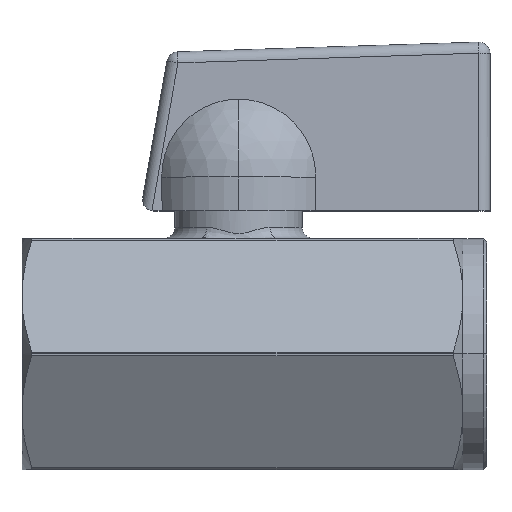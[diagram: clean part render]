
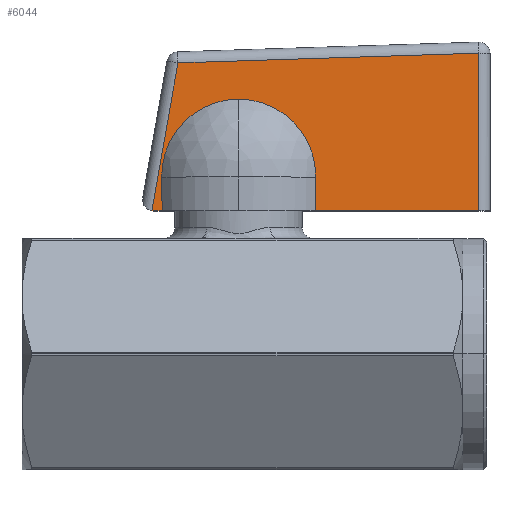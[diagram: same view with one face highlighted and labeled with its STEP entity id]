
A CAD part, top view. The second image highlights one B-rep face of the part: STEP entity #6044.
In plain terms, the highlighted planar face has unit normal (0.003, 0.017, 1) as drawn and (-0.017, -0.003, -1) by its records, which use the part's own axes.
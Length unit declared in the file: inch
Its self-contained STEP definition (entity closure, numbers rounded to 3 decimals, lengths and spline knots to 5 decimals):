
#201 =( BOUNDED_CURVE ( )  B_SPLINE_CURVE ( 3, ( #2410, #6402, #22662, #18412 ),
 .UNSPECIFIED., .F., .T. ) 
 B_SPLINE_CURVE_WITH_KNOTS ( ( 4, 4 ),
 ( 5.31758, 5.32516 ),
 .UNSPECIFIED. ) 
 CURVE ( )  GEOMETRIC_REPRESENTATION_ITEM ( )  RATIONAL_B_SPLINE_CURVE ( ( 1., 1., 1., 1. ) ) 
 REPRESENTATION_ITEM ( '' )  );
#817 = VECTOR ( 'NONE', #18929, 39.37008 ) ;
#1654 = CARTESIAN_POINT ( 'NONE',  ( 0., 0.2956, -0.18883 ) ) ;
#1756 = CARTESIAN_POINT ( 'NONE',  ( 0.00684, 0.30375, -0.18898 ) ) ;
#2410 = CARTESIAN_POINT ( 'NONE',  ( -0.11811, -0.2693, -0.18509 ) ) ;
#2630 = LINE ( 'NONE', #14880, #16969 ) ;
#3029 = CARTESIAN_POINT ( 'NONE',  ( 0., -0.8387, -0.1854 ) ) ;
#3222 = VERTEX_POINT ( 'NONE', #18134 ) ;
#3407 = CARTESIAN_POINT ( 'NONE',  ( 0., 0.29789, -0.18884 ) ) ;
#3822 = VERTEX_POINT ( 'NONE', #17900 ) ;
#4203 = EDGE_CURVE ( 'NONE', #16879, #3222, #2630, .T. ) ;
#4213 = CARTESIAN_POINT ( 'NONE',  ( -0.55168, -0.87328, -0.17581 ) ) ;
#4371 =( BOUNDED_CURVE ( )  B_SPLINE_CURVE ( 3, ( #10057, #13803, #3407, #1654 ),
 .UNSPECIFIED., .F., .F. ) 
 B_SPLINE_CURVE_WITH_KNOTS ( ( 4, 4 ),
 ( 0., 0.17453 ),
 .UNSPECIFIED. ) 
 CURVE ( )  GEOMETRIC_REPRESENTATION_ITEM ( )  RATIONAL_B_SPLINE_CURVE ( ( 1., 0.997, 0.997, 1. ) ) 
 REPRESENTATION_ITEM ( '' )  );
#4936 = CARTESIAN_POINT ( 'NONE',  ( 0., 0.34137, -0.18897 ) ) ;
#5399 = VERTEX_POINT ( 'NONE', #21368 ) ;
#5614 = DIRECTION ( 'NONE',  ( 0., 1., -0.003 ) ) ;
#5619 = EDGE_CURVE ( 'NONE', #17907, #21731, #4371, .T. ) ;
#6044 = ADVANCED_FACE ( 'NONE', ( #8043 ), #12335, .F. ) ;
#6402 = CARTESIAN_POINT ( 'NONE',  ( -0.07864, -0.26883, -0.18577 ) ) ;
#6403 = CIRCLE ( 'NONE', #7253, 0.26875 ) ;
#6994 = CARTESIAN_POINT ( 'NONE',  ( -0.39002, 0., -0.18123 ) ) ;
#7253 = AXIS2_PLACEMENT_3D ( 'NONE', #8012, #11909, #16147 ) ;
#7750 = LINE ( 'NONE', #26157, #23415 ) ;
#8012 = CARTESIAN_POINT ( 'NONE',  ( -0.1213, -0.00056, -0.18585 ) ) ;
#8043 = FACE_OUTER_BOUND ( 'NONE', #12156, .T. ) ;
#8131 = ORIENTED_EDGE ( 'NONE', *, *, #15511, .T. ) ;
#8428 = VERTEX_POINT ( 'NONE', #23391 ) ;
#9307 = ORIENTED_EDGE ( 'NONE', *, *, #24202, .T. ) ;
#9701 = DIRECTION ( 'NONE',  ( 1., 0., -0.017 ) ) ;
#10057 = CARTESIAN_POINT ( 'NONE',  ( -0.0006, 0.30244, -0.18884 ) ) ;
#10081 = AXIS2_PLACEMENT_3D ( 'NONE', #12599, #10334, #12729 ) ;
#10238 = EDGE_CURVE ( 'NONE', #3222, #13763, #26218, .T. ) ;
#10334 = DIRECTION ( 'NONE',  ( 0.017, 0.003, 1. ) ) ;
#10878 = ORIENTED_EDGE ( 'NONE', *, *, #5619, .T. ) ;
#11035 = CARTESIAN_POINT ( 'NONE',  ( 0., 0.2956, -0.18883 ) ) ;
#11060 = VECTOR ( 'NONE', #15887, 39.37008 ) ;
#11909 = DIRECTION ( 'NONE',  ( 0.017, 0.003, 1. ) ) ;
#12156 = EDGE_LOOP ( 'NONE', ( #22854, #15176, #22592, #25919, #10878, #17365, #15343, #8131, #16321, #9307 ) ) ;
#12216 = DIRECTION ( 'NONE',  ( 0.032, 0.999, -0.004 ) ) ;
#12240 = CARTESIAN_POINT ( 'NONE',  ( -0.1213, -0.00056, -0.18585 ) ) ;
#12335 = PLANE ( 'NONE',  #10081 ) ;
#12599 = CARTESIAN_POINT ( 'NONE',  ( 0.21877, -0.89818, -0.18898 ) ) ;
#12624 = CARTESIAN_POINT ( 'NONE',  ( -0.0006, 0.30244, -0.18884 ) ) ;
#12729 = DIRECTION ( 'NONE',  ( 0.174, -0.985, 0. ) ) ;
#12735 = CARTESIAN_POINT ( 'NONE',  ( -0.07864, 0.2677, -0.1874 ) ) ;
#13030 = DIRECTION ( 'NONE',  ( -1., 0., 0.017 ) ) ;
#13611 = AXIS2_PLACEMENT_3D ( 'NONE', #12240, #18218, #9701 ) ;
#13752 = EDGE_CURVE ( 'NONE', #8428, #17296, #17652, .T. ) ;
#13763 = VERTEX_POINT ( 'NONE', #22569 ) ;
#13803 = CARTESIAN_POINT ( 'NONE',  ( -0.0002, 0.30018, -0.18884 ) ) ;
#14463 = CARTESIAN_POINT ( 'NONE',  ( 0., 0.26675, -0.18875 ) ) ;
#14880 = CARTESIAN_POINT ( 'NONE',  ( 0.21877, -0.8387, -0.18916 ) ) ;
#15176 = ORIENTED_EDGE ( 'NONE', *, *, #4203, .T. ) ;
#15343 = ORIENTED_EDGE ( 'NONE', *, *, #13752, .T. ) ;
#15511 = EDGE_CURVE ( 'NONE', #17296, #17397, #23799, .T. ) ;
#15887 = DIRECTION ( 'NONE',  ( 0.985, 0.174, -0.017 ) ) ;
#16147 = DIRECTION ( 'NONE',  ( 1., 0., -0.017 ) ) ;
#16321 = ORIENTED_EDGE ( 'NONE', *, *, #24055, .T. ) ;
#16675 = LINE ( 'NONE', #4936, #817 ) ;
#16879 = VERTEX_POINT ( 'NONE', #3029 ) ;
#16969 = VECTOR ( 'NONE', #13030, 39.37008 ) ;
#17296 = VERTEX_POINT ( 'NONE', #19120 ) ;
#17365 = ORIENTED_EDGE ( 'NONE', *, *, #17694, .F. ) ;
#17397 = VERTEX_POINT ( 'NONE', #6994 ) ;
#17652 =( BOUNDED_CURVE ( )  B_SPLINE_CURVE ( 3, ( #14463, #24433, #12735, #22966 ),
 .UNSPECIFIED., .F., .F. ) 
 B_SPLINE_CURVE_WITH_KNOTS ( ( 4, 4 ),
 ( 0.95803, 0.9656 ),
 .UNSPECIFIED. ) 
 CURVE ( )  GEOMETRIC_REPRESENTATION_ITEM ( )  RATIONAL_B_SPLINE_CURVE ( ( 1., 1., 1., 1. ) ) 
 REPRESENTATION_ITEM ( '' )  );
#17694 = EDGE_CURVE ( 'NONE', #8428, #21731, #7750, .T. ) ;
#17900 = CARTESIAN_POINT ( 'NONE',  ( 0., -0.26789, -0.18713 ) ) ;
#17907 = VERTEX_POINT ( 'NONE', #12624 ) ;
#18134 = CARTESIAN_POINT ( 'NONE',  ( -0.55057, -0.8387, -0.17593 ) ) ;
#18148 = LINE ( 'NONE', #1756, #11060 ) ;
#18218 = DIRECTION ( 'NONE',  ( 0.017, 0.003, 1. ) ) ;
#18412 = CARTESIAN_POINT ( 'NONE',  ( 0., -0.26789, -0.18713 ) ) ;
#18929 = DIRECTION ( 'NONE',  ( 0., 1., -0.003 ) ) ;
#19120 = CARTESIAN_POINT ( 'NONE',  ( -0.11811, 0.26817, -0.18672 ) ) ;
#20323 = VECTOR ( 'NONE', #12216, 39.37008 ) ;
#21368 = CARTESIAN_POINT ( 'NONE',  ( -0.11811, -0.2693, -0.18509 ) ) ;
#21731 = VERTEX_POINT ( 'NONE', #11035 ) ;
#22484 = EDGE_CURVE ( 'NONE', #16879, #3822, #16675, .T. ) ;
#22569 = CARTESIAN_POINT ( 'NONE',  ( -0.51669, 0.21144, -0.1797 ) ) ;
#22592 = ORIENTED_EDGE ( 'NONE', *, *, #10238, .T. ) ;
#22662 = CARTESIAN_POINT ( 'NONE',  ( -0.03927, -0.26836, -0.18645 ) ) ;
#22854 = ORIENTED_EDGE ( 'NONE', *, *, #22484, .F. ) ;
#22966 = CARTESIAN_POINT ( 'NONE',  ( -0.11811, 0.26817, -0.18672 ) ) ;
#23391 = CARTESIAN_POINT ( 'NONE',  ( 0., 0.26675, -0.18875 ) ) ;
#23415 = VECTOR ( 'NONE', #5614, 39.37008 ) ;
#23799 = CIRCLE ( 'NONE', #13611, 0.26875 ) ;
#23822 = EDGE_CURVE ( 'NONE', #13763, #17907, #18148, .T. ) ;
#24055 = EDGE_CURVE ( 'NONE', #17397, #5399, #6403, .T. ) ;
#24202 = EDGE_CURVE ( 'NONE', #5399, #3822, #201, .T. ) ;
#24433 = CARTESIAN_POINT ( 'NONE',  ( -0.03927, 0.26722, -0.18807 ) ) ;
#25919 = ORIENTED_EDGE ( 'NONE', *, *, #23822, .T. ) ;
#26157 = CARTESIAN_POINT ( 'NONE',  ( 0., 0.34137, -0.18897 ) ) ;
#26218 = LINE ( 'NONE', #4213, #20323 ) ;
